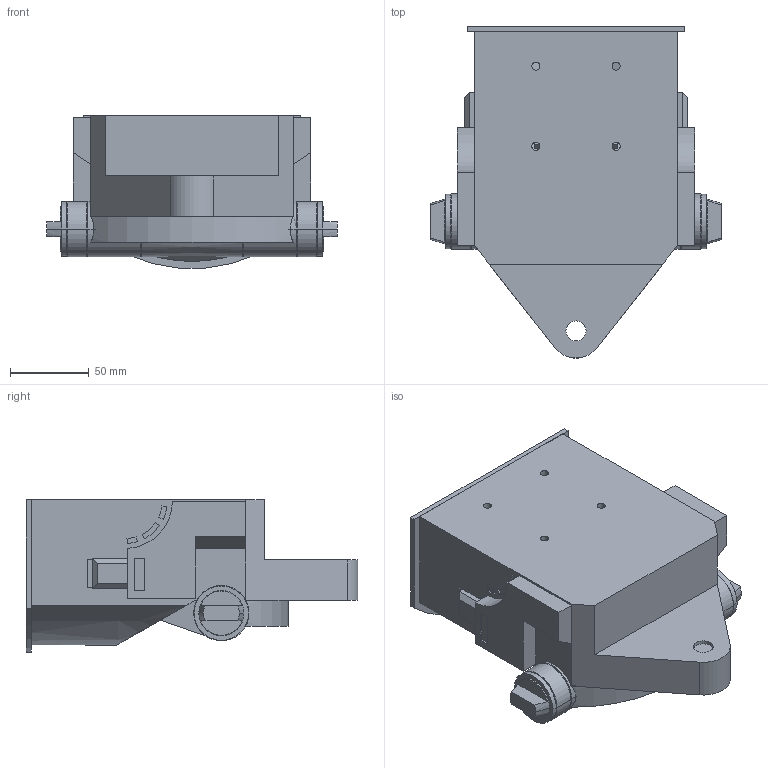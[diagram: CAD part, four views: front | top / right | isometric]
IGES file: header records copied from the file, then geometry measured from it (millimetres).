
Start section: 3D InterOp IGES (Version 21 0 3), Spatial Corp. Copyright (c) 1999-2007.
Global section: file name: CSR Ankle Assembly Outer - 20140621.igs; native system: Spatial Corp.; preprocessor: 3D InterOp GENERIC/IGES 3.0; author: Noname; organization: Noname; date: 20140621.082353; units: inch
Bounding box: 184.14 x 210.13 x 96.47 mm (x, y, z)
Surface area: 215607.1 mm2 (no closed solid volume)
Topology: 0 solids, 0 shells, 271 faces, 1336 edges, 1336 vertices
Faces by surface type: extrusion 164, revolution 107
